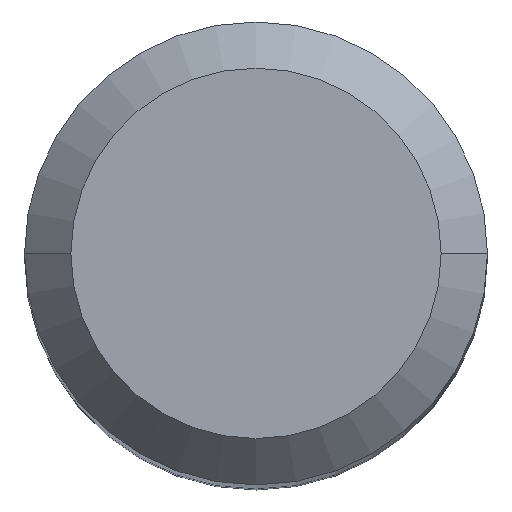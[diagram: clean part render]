
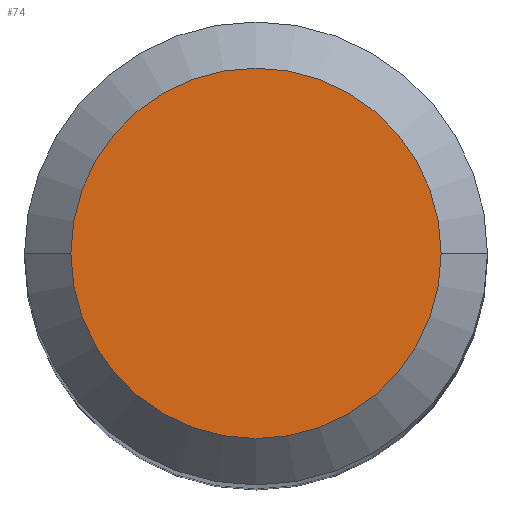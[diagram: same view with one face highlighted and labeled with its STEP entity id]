
A CAD part, top view. The second image highlights one B-rep face of the part: STEP entity #74.
In plain terms, the highlighted planar face has unit normal (0, 0, 1).
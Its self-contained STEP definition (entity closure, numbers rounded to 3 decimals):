
#33 = EDGE_LOOP ( 'NONE', ( #86, #304 ) ) ;
#53 = PLANE ( 'NONE',  #240 ) ;
#64 = DIRECTION ( 'NONE',  ( -1., 0., 0. ) ) ;
#74 = ADVANCED_FACE ( 'NONE', ( #205 ), #53, .T. ) ;
#86 = ORIENTED_EDGE ( 'NONE', *, *, #215, .F. ) ;
#104 = CARTESIAN_POINT ( 'NONE',  ( -8., 0., 0. ) ) ;
#178 = DIRECTION ( 'NONE',  ( 0., 0., -1. ) ) ;
#187 = VERTEX_POINT ( 'NONE', #104 ) ;
#192 = CIRCLE ( 'NONE', #246, 8. ) ;
#205 = FACE_OUTER_BOUND ( 'NONE', #33, .T. ) ;
#212 = CIRCLE ( 'NONE', #382, 8. ) ;
#215 = EDGE_CURVE ( 'NONE', #187, #313, #212, .T. ) ;
#217 = CARTESIAN_POINT ( 'NONE',  ( 8., 0., 0. ) ) ;
#236 = DIRECTION ( 'NONE',  ( -1., 0., 0. ) ) ;
#237 = EDGE_CURVE ( 'NONE', #313, #187, #192, .T. ) ;
#240 = AXIS2_PLACEMENT_3D ( 'NONE', #323, #292, #375 ) ;
#246 = AXIS2_PLACEMENT_3D ( 'NONE', #275, #178, #64 ) ;
#269 = CARTESIAN_POINT ( 'NONE',  ( 0., 0., 0. ) ) ;
#275 = CARTESIAN_POINT ( 'NONE',  ( 0., 0., 0. ) ) ;
#292 = DIRECTION ( 'NONE',  ( 0., 0., 1. ) ) ;
#304 = ORIENTED_EDGE ( 'NONE', *, *, #237, .F. ) ;
#313 = VERTEX_POINT ( 'NONE', #217 ) ;
#323 = CARTESIAN_POINT ( 'NONE',  ( 0., 8., 0. ) ) ;
#375 = DIRECTION ( 'NONE',  ( 1., 0., 0. ) ) ;
#382 = AXIS2_PLACEMENT_3D ( 'NONE', #269, #388, #236 ) ;
#388 = DIRECTION ( 'NONE',  ( 0., 0., -1. ) ) ;
